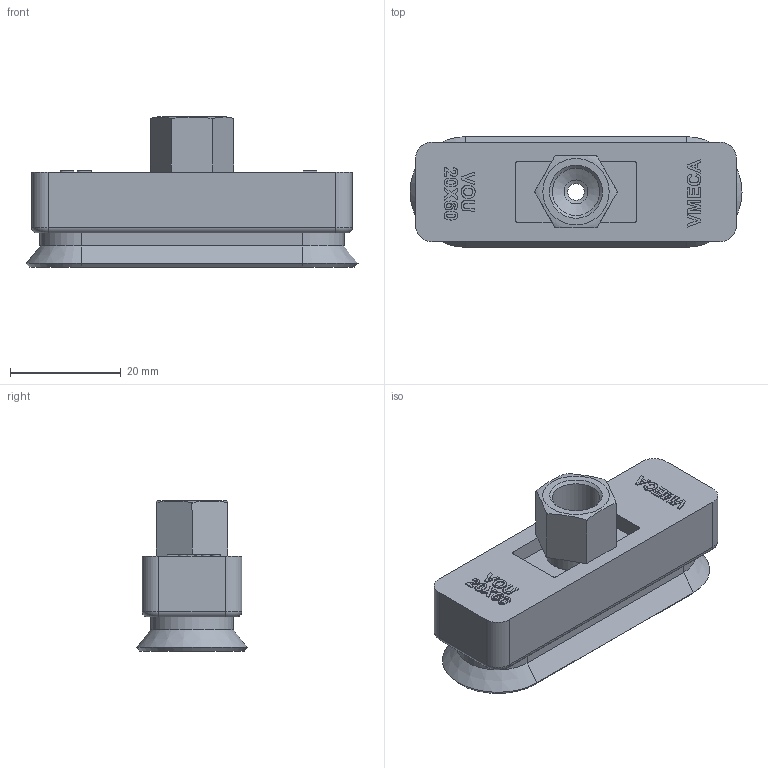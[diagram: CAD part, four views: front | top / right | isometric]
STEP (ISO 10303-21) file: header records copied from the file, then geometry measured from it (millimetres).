
FILE_DESCRIPTION( ( 'Unknown' ), '1' );
FILE_NAME( 'D:/New PAD/PAD-VOU/Part/STEP/VOU 20X60_18F.stp', 'Unknown', ( 'Unknown' ), ( 'Unknown' ), 'XStep 1.0', 'Unknown', ' ' );
FILE_SCHEMA( ( 'automotive_design' ) );
Length unit declared in the file: millimetre
Products named in the file (1): 20X60_STP
Bounding box: 60 x 20 x 27.2 mm (x, y, z)
Volume: 17037.6 mm3; surface area: 6159.4 mm2
Topology: 1 solids, 1 shells, 169 faces, 420 edges, 272 vertices
Faces by surface type: extrusion 86, plane 47, cylinder 22, cone 9, torus 4, revolution 1
Full cylindrical faces by diameter (mm): 3 x1, 4.3 x1, 5 x1, 6.5 x1, 8.566 x2
Entity records: 7357 total; most frequent: CARTESIAN_POINT 2232, ORIENTED_EDGE 792, DIRECTION 595, EDGE_CURVE 396, VECTOR 318, VERTEX_POINT 267, LINE 232, EDGE_LOOP 213
